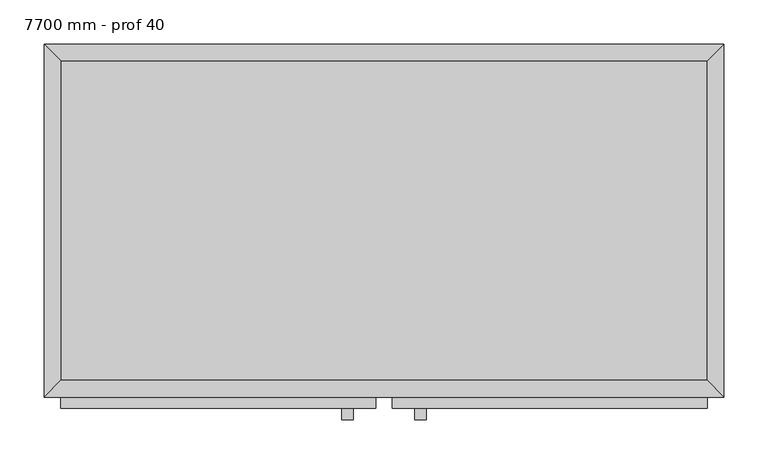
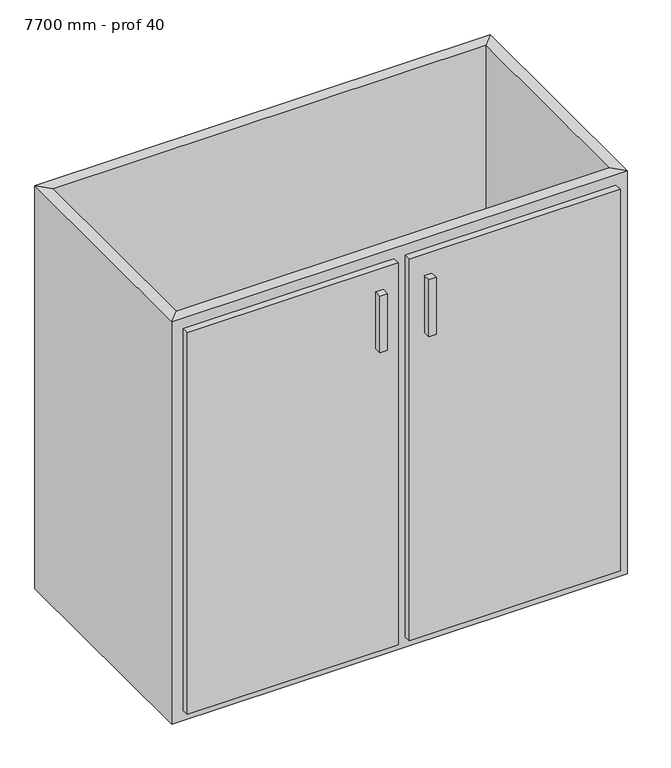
"""IFC4 building model written with IfcOpenShell, lengths in millimetres: furniture geometry, Armario-Puerta doble Unidad de fregadero : 7700 mm - prof 40."""

from ifc_helpers import new_model, si_unit, frame, origin, place, context, project, spatial, polyline, outline, extrude, faceted_brep, source, transform, mapped, element, save


def furniture_7700_mm_prof_40_e6cee792(model_context):
    return source(origin(), model_context, "Body", "SolidModel", [
        extrude(outline(polyline([(384.6877049, -19.05), (384.6877049, -380.95), (-347.2122951, -380.95), (-347.2122951, -19.05), (384.6877049, -19.05)])), frame((0.0, 0.0, 150.0), z_axis=(0.0, 0.0, 1.0), x_axis=(1.0, 0.0, 0.0)), (0.0, 0.0, 1.0), 19.05),
        faceted_brep([(384.6877049, -380.95, 870.0), (384.6877049, -380.95, 150.0), (-347.2122951, -380.95, 150.0), (-347.2122951, -380.95, 870.0), (403.7377049, -400.0, 870.0), (-366.2622951, -400.0, 870.0), (403.7377049, -400.0, 150.0), (-366.2622951, -400.0, 150.0), (-347.2122951, -19.05, 150.0), (-347.2122951, -19.05, 870.0), (-366.2622951, 0.0, 870.0), (-366.2622951, 0.0, 150.0), (384.6877049, -19.05, 150.0), (384.6877049, -19.05, 870.0), (403.7377049, 0.0, 870.0), (403.7377049, 0.0, 150.0)], [[[0, 1, 2, 3]], [[4, 0, 3, 5]], [[6, 4, 5, 7]], [[1, 6, 7, 2]], [[3, 2, 8, 9]], [[5, 3, 9, 10]], [[7, 5, 10, 11]], [[2, 7, 11, 8]], [[9, 8, 12, 13]], [[10, 9, 13, 14]], [[11, 10, 14, 15]], [[8, 11, 15, 12]], [[13, 12, 1, 0]], [[14, 13, 0, 4]], [[15, 14, 4, 6]], [[12, 15, 6, 1]]]),
        extrude(outline(polyline([(9.2127049, -412.7), (-347.2122951, -412.7), (-347.2122951, -400.0), (9.2127049, -400.0), (9.2127049, -412.7)])), frame((0.0, 0.0, 169.05), z_axis=(0.0, 0.0, 1.0), x_axis=(1.0, 0.0, 0.0)), (0.0, 0.0, 1.0), 681.9),
        extrude(outline(polyline([(384.6877049, -412.7), (28.2627049, -412.7), (28.2627049, -400.0), (384.6877049, -400.0), (384.6877049, -412.7)])), frame((0.0, 0.0, 169.05), z_axis=(0.0, 0.0, 1.0), x_axis=(1.0, 0.0, 0.0)), (0.0, 0.0, 1.0), 681.9),
        extrude(outline(polyline([(-16.1872951, -425.4), (-28.8872951, -425.4), (-28.8872951, -412.7), (-16.1872951, -412.7), (-16.1872951, -425.4)])), frame((0.0, 0.0, 711.25), z_axis=(0.0, 0.0, 1.0), x_axis=(1.0, 0.0, 0.0)), (0.0, 0.0, 1.0), 101.6),
        extrude(outline(polyline([(66.3627049, -425.4), (53.6627049, -425.4), (53.6627049, -412.7), (66.3627049, -412.7), (66.3627049, -425.4)])), frame((0.0, 0.0, 711.25), z_axis=(0.0, 0.0, 1.0), x_axis=(1.0, 0.0, 0.0)), (0.0, 0.0, 1.0), 101.6),
    ])


if __name__ == "__main__":
    model = new_model("IFC4")
    model_context = context("Model", 3, world=origin())
    ifc_project = project(units=[si_unit("LENGTHUNIT", "METRE", prefix="MILLI")], contexts=[model_context])
    site = spatial("IfcSite", under=ifc_project)
    building = spatial("IfcBuilding", under=site)
    placement = place(None, origin())
    furniture_7700_mm_prof_40_shape = furniture_7700_mm_prof_40_e6cee792(model_context)
    element("IfcFurniture", 1, ObjectType="Armario-Puerta doble Unidad de fregadero : 7700 mm - prof 40", at=placement, inside=building, context=model_context, shape_type="MappedRepresentation", body=[
        mapped(furniture_7700_mm_prof_40_shape, transform((0.0, 0.0, 0.0), x_axis=(1.0, 0.0, 0.0), y_axis=(0.0, 1.0, 0.0), z_axis=(0.0, 0.0, 1.0))),
    ])
    save(model, "model.ifc")
